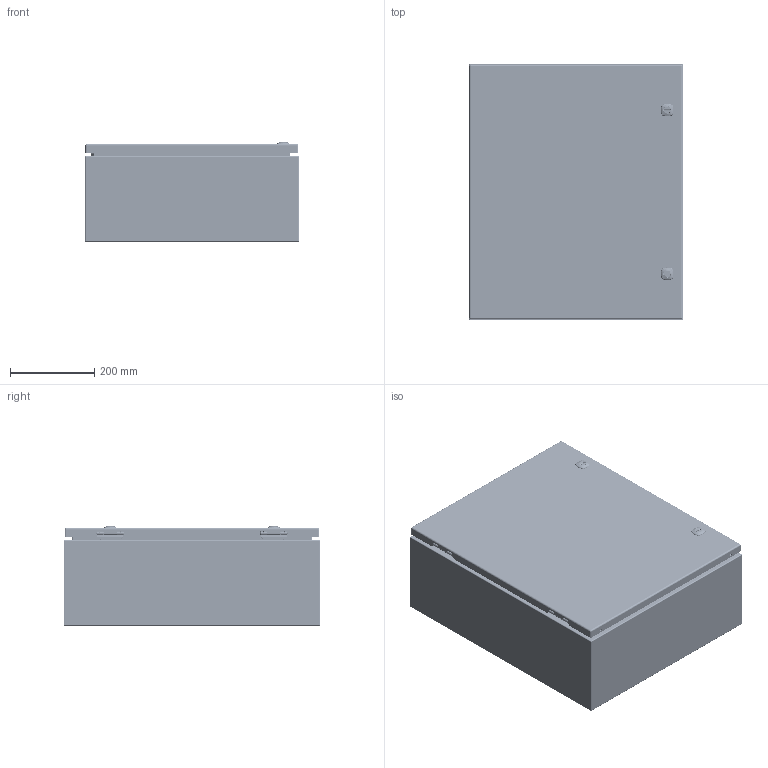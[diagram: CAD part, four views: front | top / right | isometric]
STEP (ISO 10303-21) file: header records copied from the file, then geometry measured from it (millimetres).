
FILE_DESCRIPTION(/* description */ ('5412ES 24" x 20" x 8" Assembly'),/* implementation_level */ '2;1');
FILE_NAME(/* name */ '5412ESB242008.stp',/* time_stamp */ '2024-01-17T17:45:47-05:00',/* author */ ('BoxCad'),/* organization */ (''),/* preprocessor_version */ 'ST-DEVELOPER v20',/* originating_system */ 'Autodesk Inventor 2024',/* authorisation */ '');
FILE_SCHEMA (('AUTOMOTIVE_DESIGN { 1 0 10303 214 3 1 1 }'));
Products named in the file (43): 5412ESB242008; 5412ESB242008B; 5412ESB242008B-P; STK-Q-16005; STUD_M6 x 16mm; 5412ESB242008C; 5412ESB242008C-P; 5412ESB242008G; STK-K-09800; STK-K-09800-2; STK-Q-33014; STK-Q-90398; STK-Q-40095; STK-Q-63410; STK-Q-16055; STK-Q-46020-24; STK-Q-07220-1; STK-Q-07220-2; STK-Q-07220-3; STK-Q-07220-4; STK-Q-07220-A; STK-Q-07220-B; STK-P-03820R; STK-S-00100; STK-K-12500; STK-Q-78111; STK-Q-78141; STK-Q-78120; STK-Q-78145; STK-Q-03200; STK-Q-78160; STK-Q-90390; STK-Q-78111-R; STK-Q-04050-08-1; STK-Q-04050-08-2; STK-Q-04050-08-P; STK-Q-04051-N; STK-A-01800; 5412ESB242008IPK; STK-Q-07610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
Assembly tree (73 placements, depth 4):
  5412ESB242008
    5412ESB242008B
      5412ESB242008B-P
      STK-Q-16005  x4
      STK-P-03820R
      STUD_M6 x 16mm
    5412ESB242008C
      5412ESB242008C-P
      5412ESB242008G
      STK-K-09800
        STK-Q-33014
        STK-Q-90398
        STK-Q-40095  x2
        STK-Q-63410  x2
      STK-K-09800-2
        STK-Q-33014
        STK-Q-90398
        STK-Q-40095  x2
        STK-Q-63410  x2
      STK-Q-16055  x4
      STK-Q-46020-24  x2
      STK-Q-07220-1
        STK-Q-07220-A
        STK-Q-07220-B
      STK-Q-07220-2
        STK-Q-07220-A
        STK-Q-07220-B
      STK-Q-07220-3
        STK-Q-07220-A
        STK-Q-07220-B
      STK-Q-07220-4
        STK-Q-07220-A
        STK-Q-07220-B
      STK-P-03820R
      STK-S-00100
      STK-K-12500  x2
        STK-Q-78111
        STK-Q-78141
        STK-Q-78120
        STK-Q-78145
        STK-Q-03200
        STK-Q-78160
        STK-Q-90390
        STK-Q-78111-R
    STK-Q-04050-08-1
      STK-Q-04050-08-P
      STK-Q-04051-N
    STK-Q-04050-08-2
      STK-Q-04050-08-P
      STK-Q-04051-N
    STK-A-01800
    5412ESB242008IPK
      STK-Q-07610  x4
      STK-Q-07310  x4
    881SP2420G
      881SP2420G-P
Bounding box: 508.07 x 609.6 x 236.47 mm (x, y, z)
Volume: 2569290.9 mm3; surface area: 3191403.3 mm2
Topology: 64 solids, 64 shells, 9812 faces, 25937 edges, 16272 vertices
Faces by surface type: bspline 3330, plane 2831, cylinder 2600, torus 695, sphere 220, cone 136
Full cylindrical faces by diameter (mm): 0 x1, 0.75 x9, 0.762 x9, 1 x8, 1.1 x8, 3.2 x4, 4.191 x40, 4.5 x4, 4.521 x8, 4.75 x2, 4.85 x16, 4.95 x4, 5 x4, 5.1 x30, 5.156 x4, 5.6 x2, 5.9 x25, 6.015 x40, 6.65 x4, 6.8 x4, 6.85 x8, 7.3 x2, 7.366 x4, 7.9 x8, 8 x12, 8.382 x2, 9.5 x4, 9.6 x2, 9.906 x4, 10 x2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
Entity records: 153262 total; most frequent: CARTESIAN_POINT 61044, ORIENTED_EDGE 20842, DIRECTION 15758, EDGE_CURVE 10421, VERTEX_POINT 6524, AXIS2_PLACEMENT_3D 5806, EDGE_LOOP 4319, LINE 4146
